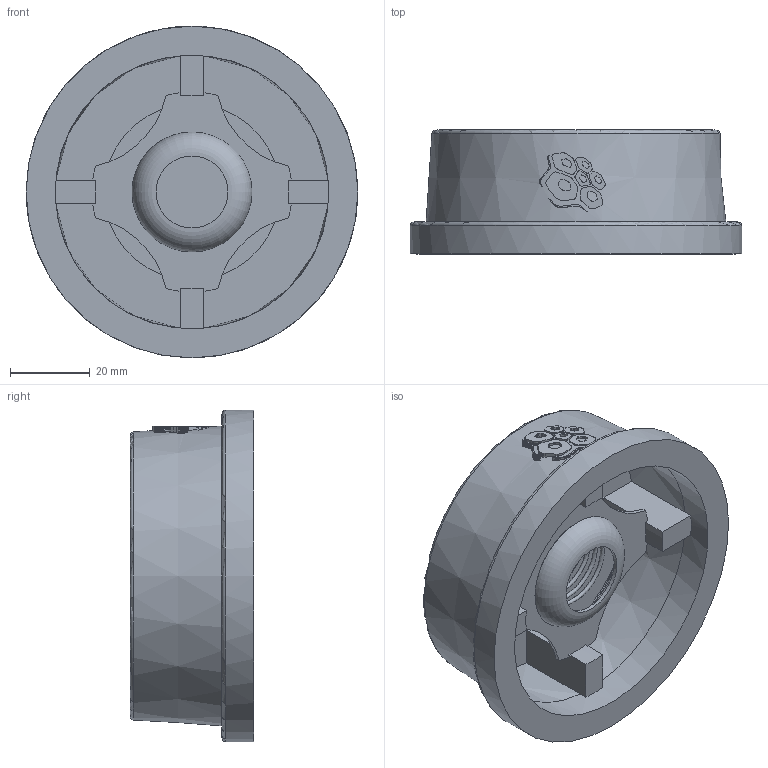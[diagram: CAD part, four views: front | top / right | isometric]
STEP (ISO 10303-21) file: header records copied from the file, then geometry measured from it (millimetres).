
FILE_DESCRIPTION(('STEP AP203'), '1');
FILE_NAME('3D_404-040-40', '', ('UNSPECIFIED'), ('UNSPECIFIED'), 'C3D Converter', 'C3D Toolkit', '');
FILE_SCHEMA(('CONFIG_CONTROL_DESIGN'));
Length unit declared in the file: millimetre
Bounding box: 83 x 31 x 83 mm (x, y, z)
Volume: 44870.4 mm3; surface area: 30178.2 mm2
Topology: 2 solids, 2 shells, 886 faces, 2606 edges, 1736 vertices
Faces by surface type: plane 844, cylinder 26, cone 11, torus 4, bspline 1
Full cylindrical faces by diameter (mm): 18 x1, 30 x1, 40 x1, 44 x1, 68.5 x1, 83 x1
Entity records: 40268 total; most frequent: CARTESIAN_POINT 11108, ORIENTED_EDGE 5186, DIRECTION 3631, EDGE_CURVE 2593, VERTEX_POINT 1735, LINE 1719, VECTOR 1719, AXIS2_PLACEMENT_3D 956
